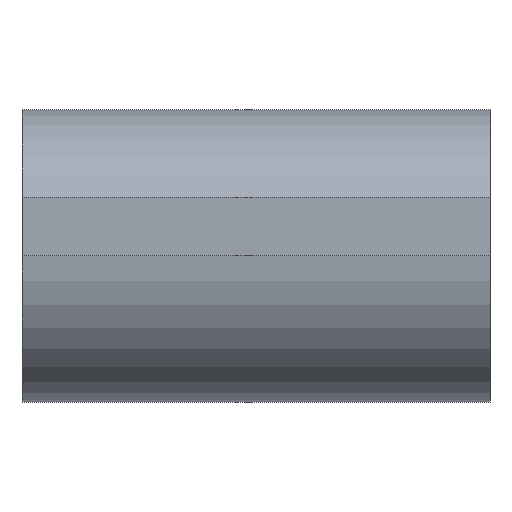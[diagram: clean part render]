
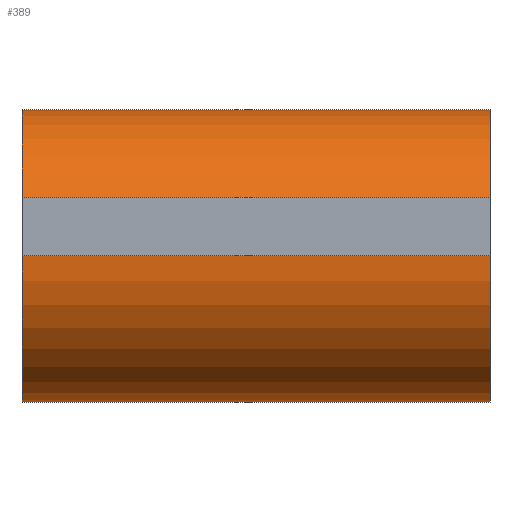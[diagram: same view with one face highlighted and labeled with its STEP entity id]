
A CAD part, front view. The second image highlights one B-rep face of the part: STEP entity #389.
In plain terms, the highlighted cylindrical face has radius 2.5 mm (diameter 5 mm), a partial arc.
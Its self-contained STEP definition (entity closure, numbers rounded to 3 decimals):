
#43 = PLANE('',#44);
#44 = AXIS2_PLACEMENT_3D('',#45,#46,#47);
#45 = CARTESIAN_POINT('',(0.,0.,0.));
#46 = DIRECTION('',(1.,0.,0.));
#47 = DIRECTION('',(-0.,1.,0.));
#93 = PLANE('',#94);
#94 = AXIS2_PLACEMENT_3D('',#95,#96,#97);
#95 = CARTESIAN_POINT('',(8.,0.,0.));
#96 = DIRECTION('',(1.,0.,0.));
#97 = DIRECTION('',(-0.,1.,0.));
#109 = EDGE_CURVE('',#110,#112,#114,.T.);
#110 = VERTEX_POINT('',#111);
#111 = CARTESIAN_POINT('',(8.,-2.5,0.));
#112 = VERTEX_POINT('',#113);
#113 = CARTESIAN_POINT('',(8.,-2.291,1.));
#114 = SURFACE_CURVE('',#115,(#120,#127),.PCURVE_S1.);
#115 = CIRCLE('',#116,2.5);
#116 = AXIS2_PLACEMENT_3D('',#117,#118,#119);
#117 = CARTESIAN_POINT('',(8.,0.,0.));
#118 = DIRECTION('',(1.,0.,0.));
#119 = DIRECTION('',(0.,-1.,0.));
#120 = PCURVE('',#93,#121);
#121 = DEFINITIONAL_REPRESENTATION('',(#122),#126);
#122 = CIRCLE('',#123,2.5);
#123 = AXIS2_PLACEMENT_2D('',#124,#125);
#124 = CARTESIAN_POINT('',(0.,0.));
#125 = DIRECTION('',(-1.,0.));
#126 = ( GEOMETRIC_REPRESENTATION_CONTEXT(2) 
PARAMETRIC_REPRESENTATION_CONTEXT() REPRESENTATION_CONTEXT('2D SPACE',''
  ) );
#127 = PCURVE('',#128,#133);
#128 = CYLINDRICAL_SURFACE('',#129,2.5);
#129 = AXIS2_PLACEMENT_3D('',#130,#131,#132);
#130 = CARTESIAN_POINT('',(8.,0.,0.));
#131 = DIRECTION('',(-1.,-0.,-0.));
#132 = DIRECTION('',(0.,1.,0.));
#133 = DEFINITIONAL_REPRESENTATION('',(#134),#138);
#134 = LINE('',#135,#136);
#135 = CARTESIAN_POINT('',(-3.142,0.));
#136 = VECTOR('',#137,1.);
#137 = DIRECTION('',(-1.,0.));
#138 = ( GEOMETRIC_REPRESENTATION_CONTEXT(2) 
PARAMETRIC_REPRESENTATION_CONTEXT() REPRESENTATION_CONTEXT('2D SPACE',''
  ) );
#156 = PLANE('',#157);
#157 = AXIS2_PLACEMENT_3D('',#158,#159,#160);
#158 = CARTESIAN_POINT('',(4.,-7.,0.));
#159 = DIRECTION('',(-0.,-0.,-1.));
#160 = DIRECTION('',(-1.,0.,0.));
#210 = PLANE('',#211);
#211 = AXIS2_PLACEMENT_3D('',#212,#213,#214);
#212 = CARTESIAN_POINT('',(4.,-7.,1.));
#213 = DIRECTION('',(-0.,-0.,-1.));
#214 = DIRECTION('',(-1.,0.,0.));
#231 = VERTEX_POINT('',#232);
#232 = CARTESIAN_POINT('',(0.,-2.291,1.));
#253 = EDGE_CURVE('',#112,#231,#254,.T.);
#254 = SURFACE_CURVE('',#255,(#259,#265),.PCURVE_S1.);
#255 = LINE('',#256,#257);
#256 = CARTESIAN_POINT('',(8.,-2.291,1.));
#257 = VECTOR('',#258,1.);
#258 = DIRECTION('',(-1.,-0.,-0.));
#259 = PCURVE('',#210,#260);
#260 = DEFINITIONAL_REPRESENTATION('',(#261),#264);
#261 = B_SPLINE_CURVE_WITH_KNOTS('',1,(#262,#263),.UNSPECIFIED.,.F.,.F.,
  (2,2),(0.,8.),.PIECEWISE_BEZIER_KNOTS.);
#262 = CARTESIAN_POINT('',(-4.,4.709));
#263 = CARTESIAN_POINT('',(4.,4.709));
#264 = ( GEOMETRIC_REPRESENTATION_CONTEXT(2) 
PARAMETRIC_REPRESENTATION_CONTEXT() REPRESENTATION_CONTEXT('2D SPACE',''
  ) );
#265 = PCURVE('',#128,#266);
#266 = DEFINITIONAL_REPRESENTATION('',(#267),#270);
#267 = B_SPLINE_CURVE_WITH_KNOTS('',1,(#268,#269),.UNSPECIFIED.,.F.,.F.,
  (2,2),(-0.,8.),.PIECEWISE_BEZIER_KNOTS.);
#268 = CARTESIAN_POINT('',(-9.013,0.));
#269 = CARTESIAN_POINT('',(-9.013,8.));
#270 = ( GEOMETRIC_REPRESENTATION_CONTEXT(2) 
PARAMETRIC_REPRESENTATION_CONTEXT() REPRESENTATION_CONTEXT('2D SPACE',''
  ) );
#347 = VERTEX_POINT('',#348);
#348 = CARTESIAN_POINT('',(0.,-2.5,0.));
#369 = EDGE_CURVE('',#110,#347,#370,.T.);
#370 = SURFACE_CURVE('',#371,(#375,#381),.PCURVE_S1.);
#371 = LINE('',#372,#373);
#372 = CARTESIAN_POINT('',(8.,-2.5,0.));
#373 = VECTOR('',#374,1.);
#374 = DIRECTION('',(-1.,-0.,-0.));
#375 = PCURVE('',#156,#376);
#376 = DEFINITIONAL_REPRESENTATION('',(#377),#380);
#377 = B_SPLINE_CURVE_WITH_KNOTS('',1,(#378,#379),.UNSPECIFIED.,.F.,.F.,
  (2,2),(0.,8.),.PIECEWISE_BEZIER_KNOTS.);
#378 = CARTESIAN_POINT('',(-4.,4.5));
#379 = CARTESIAN_POINT('',(4.,4.5));
#380 = ( GEOMETRIC_REPRESENTATION_CONTEXT(2) 
PARAMETRIC_REPRESENTATION_CONTEXT() REPRESENTATION_CONTEXT('2D SPACE',''
  ) );
#381 = PCURVE('',#128,#382);
#382 = DEFINITIONAL_REPRESENTATION('',(#383),#386);
#383 = B_SPLINE_CURVE_WITH_KNOTS('',1,(#384,#385),.UNSPECIFIED.,.F.,.F.,
  (2,2),(-0.,8.),.PIECEWISE_BEZIER_KNOTS.);
#384 = CARTESIAN_POINT('',(-3.142,0.));
#385 = CARTESIAN_POINT('',(-3.142,8.));
#386 = ( GEOMETRIC_REPRESENTATION_CONTEXT(2) 
PARAMETRIC_REPRESENTATION_CONTEXT() REPRESENTATION_CONTEXT('2D SPACE',''
  ) );
#389 = ADVANCED_FACE('',(#390),#128,.T.);
#390 = FACE_BOUND('',#391,.F.);
#391 = EDGE_LOOP('',(#392,#393,#394,#420));
#392 = ORIENTED_EDGE('',*,*,#109,.T.);
#393 = ORIENTED_EDGE('',*,*,#253,.T.);
#394 = ORIENTED_EDGE('',*,*,#395,.T.);
#395 = EDGE_CURVE('',#231,#347,#396,.T.);
#396 = SURFACE_CURVE('',#397,(#402,#409),.PCURVE_S1.);
#397 = CIRCLE('',#398,2.5);
#398 = AXIS2_PLACEMENT_3D('',#399,#400,#401);
#399 = CARTESIAN_POINT('',(0.,0.,0.));
#400 = DIRECTION('',(-1.,0.,0.));
#401 = DIRECTION('',(0.,-0.917,0.4));
#402 = PCURVE('',#128,#403);
#403 = DEFINITIONAL_REPRESENTATION('',(#404),#408);
#404 = LINE('',#405,#406);
#405 = CARTESIAN_POINT('',(-9.013,8.));
#406 = VECTOR('',#407,1.);
#407 = DIRECTION('',(1.,-0.));
#408 = ( GEOMETRIC_REPRESENTATION_CONTEXT(2) 
PARAMETRIC_REPRESENTATION_CONTEXT() REPRESENTATION_CONTEXT('2D SPACE',''
  ) );
#409 = PCURVE('',#43,#410);
#410 = DEFINITIONAL_REPRESENTATION('',(#411),#419);
#411 = ( BOUNDED_CURVE() B_SPLINE_CURVE(2,(#412,#413,#414,#415,#416,#417
,#418),.UNSPECIFIED.,.T.,.F.) B_SPLINE_CURVE_WITH_KNOTS((1,2,2,2,2,1),(
    -2.094,0.,2.094,4.189,6.283,
8.378),.UNSPECIFIED.) CURVE() GEOMETRIC_REPRESENTATION_ITEM() 
RATIONAL_B_SPLINE_CURVE((1.,0.5,1.,0.5,1.,0.5,1.)) REPRESENTATION_ITEM(
  '') );
#412 = CARTESIAN_POINT('',(-2.291,1.));
#413 = CARTESIAN_POINT('',(-0.559,4.969));
#414 = CARTESIAN_POINT('',(2.012,1.484));
#415 = CARTESIAN_POINT('',(4.583,-2.));
#416 = CARTESIAN_POINT('',(0.28,-2.484));
#417 = CARTESIAN_POINT('',(-4.023,-2.969));
#418 = CARTESIAN_POINT('',(-2.291,1.));
#419 = ( GEOMETRIC_REPRESENTATION_CONTEXT(2) 
PARAMETRIC_REPRESENTATION_CONTEXT() REPRESENTATION_CONTEXT('2D SPACE',''
  ) );
#420 = ORIENTED_EDGE('',*,*,#369,.F.);
